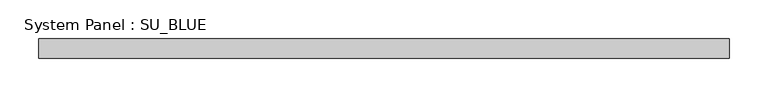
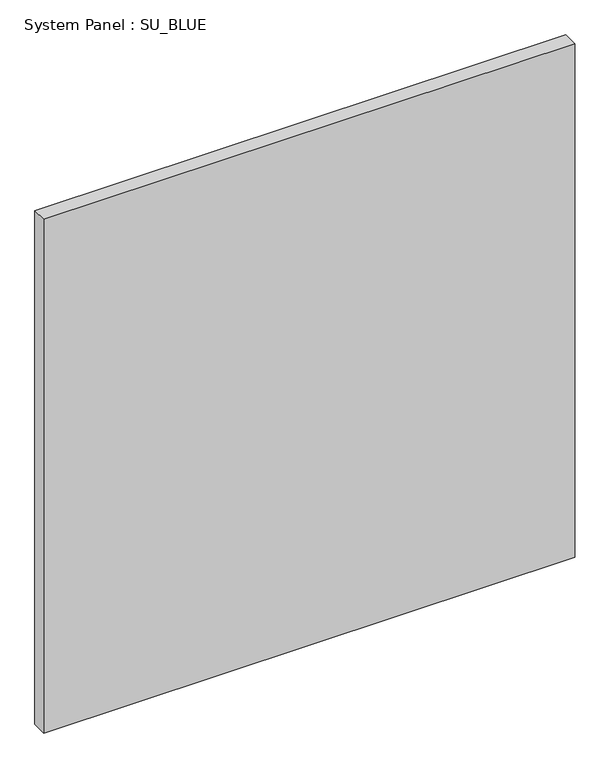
"""IFC4 building model written with IfcOpenShell, lengths in millimetres: plate geometry, System Panel : SU_BLUE."""

from ifc_helpers import new_model, si_unit, origin, origin_with_axes, place, context, project, spatial, polyline, outline, extrude, source, transform, mapped, element, save


def system_panel_su_blue_a8d80527(model_context):
    return source(origin(), model_context, "Body", "SweptSolid", [
        extrude(outline(polyline([(447.1096078, 19.05), (-447.1096078, 19.05), (-447.1096078, 44.45), (447.1096078, 44.45), (447.1096078, 19.05)])), origin_with_axes(), (0.0, 0.0, 1.0), 914.4),
    ])


if __name__ == "__main__":
    model = new_model("IFC4")
    model_context = context("Model", 3, world=origin())
    ifc_project = project(units=[si_unit("LENGTHUNIT", "METRE", prefix="MILLI")], contexts=[model_context])
    site = spatial("IfcSite", under=ifc_project)
    building = spatial("IfcBuilding", under=site)
    placement = place(None, origin())
    system_panel_su_blue_shape = system_panel_su_blue_a8d80527(model_context)
    element("IfcPlate", 1, ObjectType="System Panel : SU_BLUE", at=placement, inside=building, context=model_context, shape_type="MappedRepresentation", body=[
        mapped(system_panel_su_blue_shape, transform((0.0, 0.0, 0.0), x_axis=(1.0, 0.0, 0.0), y_axis=(0.0, 1.0, 0.0), z_axis=(0.0, 0.0, 1.0))),
    ])
    save(model, "model.ifc")
